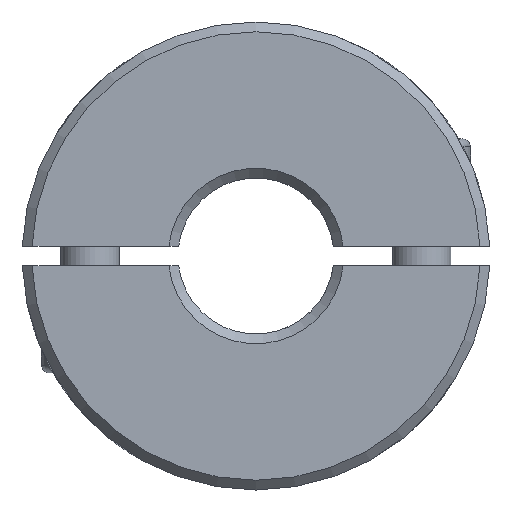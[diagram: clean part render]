
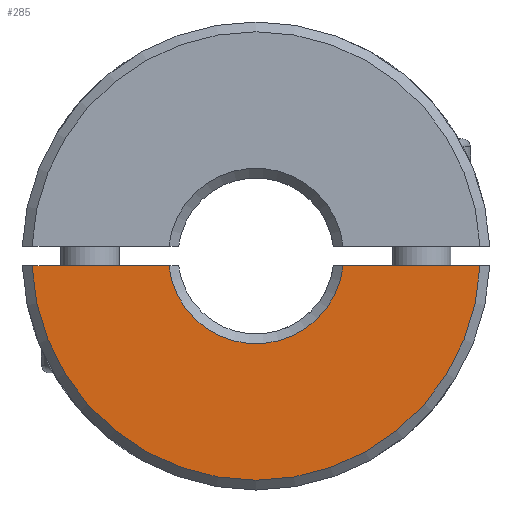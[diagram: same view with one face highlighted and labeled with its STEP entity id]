
A CAD part, front view. The second image highlights one B-rep face of the part: STEP entity #285.
In plain terms, the highlighted planar face has unit normal (0, -1, 0).
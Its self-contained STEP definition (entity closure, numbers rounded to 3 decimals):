
#285 = ADVANCED_FACE( '', ( #571 ), #572, .F. );
#571 = FACE_OUTER_BOUND( '', #915, .T. );
#572 = PLANE( '', #916 );
#915 = EDGE_LOOP( '', ( #1341, #1342, #1343, #1344 ) );
#916 = AXIS2_PLACEMENT_3D( '', #1345, #1346, #1347 );
#1341 = ORIENTED_EDGE( '', *, *, #1806, .F. );
#1342 = ORIENTED_EDGE( '', *, *, #1901, .T. );
#1343 = ORIENTED_EDGE( '', *, *, #1902, .F. );
#1344 = ORIENTED_EDGE( '', *, *, #1813, .T. );
#1345 = CARTESIAN_POINT( '', ( 0., -35., 0. ) );
#1346 = DIRECTION( '', ( 0., 1., 0. ) );
#1347 = DIRECTION( '', ( 0., 0., 1. ) );
#1806 = EDGE_CURVE( '', #2057, #2059, #2060, .T. );
#1813 = EDGE_CURVE( '', #2068, #2059, #2071, .T. );
#1901 = EDGE_CURVE( '', #2057, #2218, #2219, .F. );
#1902 = EDGE_CURVE( '', #2068, #2218, #2220, .T. );
#2057 = VERTEX_POINT( '', #2421 );
#2059 = VERTEX_POINT( '', #2426 );
#2060 = LINE( '', #2427, #2428 );
#2068 = VERTEX_POINT( '', #2443 );
#2071 = CIRCLE( '', #2449, 4.5 );
#2218 = VERTEX_POINT( '', #3285 );
#2219 = CIRCLE( '', #3286, 11.5 );
#2220 = LINE( '', #3287, #3288 );
#2421 = CARTESIAN_POINT( '', ( -11.489, -35., -0.5 ) );
#2426 = CARTESIAN_POINT( '', ( -4.472, -35., -0.5 ) );
#2427 = CARTESIAN_POINT( '', ( 0., -35., -0.5 ) );
#2428 = VECTOR( '', #3797, 1000. );
#2443 = CARTESIAN_POINT( '', ( 4.472, -35., -0.5 ) );
#2449 = AXIS2_PLACEMENT_3D( '', #3802, #3803, #3804 );
#3285 = CARTESIAN_POINT( '', ( 11.489, -35., -0.5 ) );
#3286 = AXIS2_PLACEMENT_3D( '', #3916, #3917, #3918 );
#3287 = CARTESIAN_POINT( '', ( 0., -35., -0.5 ) );
#3288 = VECTOR( '', #3919, 1000. );
#3797 = DIRECTION( '', ( 1., 0., 0. ) );
#3802 = CARTESIAN_POINT( '', ( 0., -35., 0. ) );
#3803 = DIRECTION( '', ( 0., 1., 0. ) );
#3804 = DIRECTION( '', ( 0., 0., 1. ) );
#3916 = CARTESIAN_POINT( '', ( 0., -35., 0. ) );
#3917 = DIRECTION( '', ( 0., 1., 0. ) );
#3918 = DIRECTION( '', ( 0., 0., 1. ) );
#3919 = DIRECTION( '', ( 1., 0., 0. ) );
